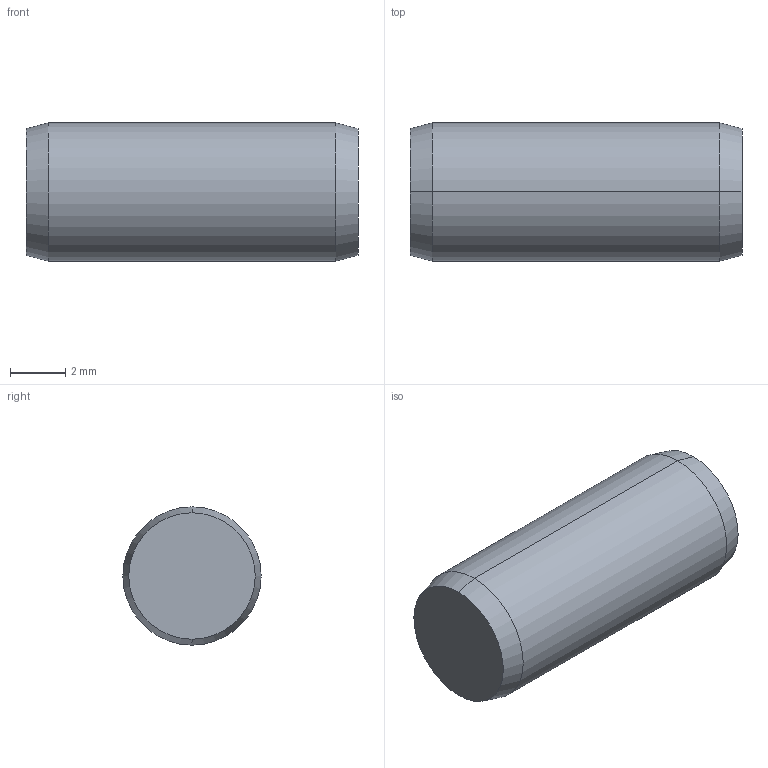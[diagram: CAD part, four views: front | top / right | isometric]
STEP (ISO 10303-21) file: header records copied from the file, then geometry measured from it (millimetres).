
FILE_DESCRIPTION (( 'STEP AP203' ), '1' );
FILE_NAME ('P1206.050-012.step', '2017-06-14T08:14:33', ( 'User' ), ( '' ), 'SwSTEP 2.0', 'SolidWorks 2009', '' );
FILE_SCHEMA (( 'CONFIG_CONTROL_DESIGN' ));
Length unit declared in the file: millimetre
Products named in the file (1): P1206.050-012
Bounding box: 12 x 5 x 5 mm (x, y, z)
Volume: 233 mm3; surface area: 221.1 mm2
Topology: 1 solids, 1 shells, 8 faces, 14 edges, 8 vertices
Faces by surface type: cone 4, cylinder 2, plane 2
Entity records: 271 total; most frequent: DIRECTION 40, CARTESIAN_POINT 31, ORIENTED_EDGE 28, AXIS2_PLACEMENT_3D 17, EDGE_CURVE 14, PERSON_AND_ORGANIZATION 8, CIRCLE 8, FACE_OUTER_BOUND 8
